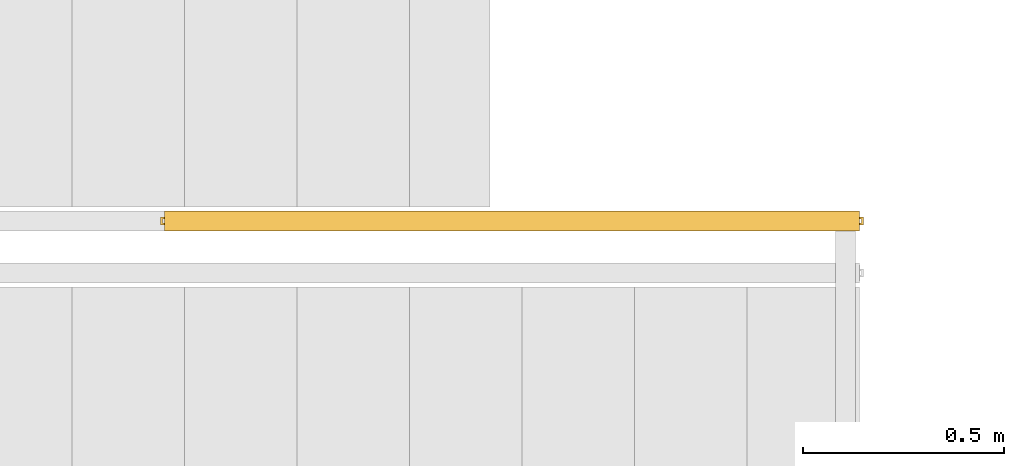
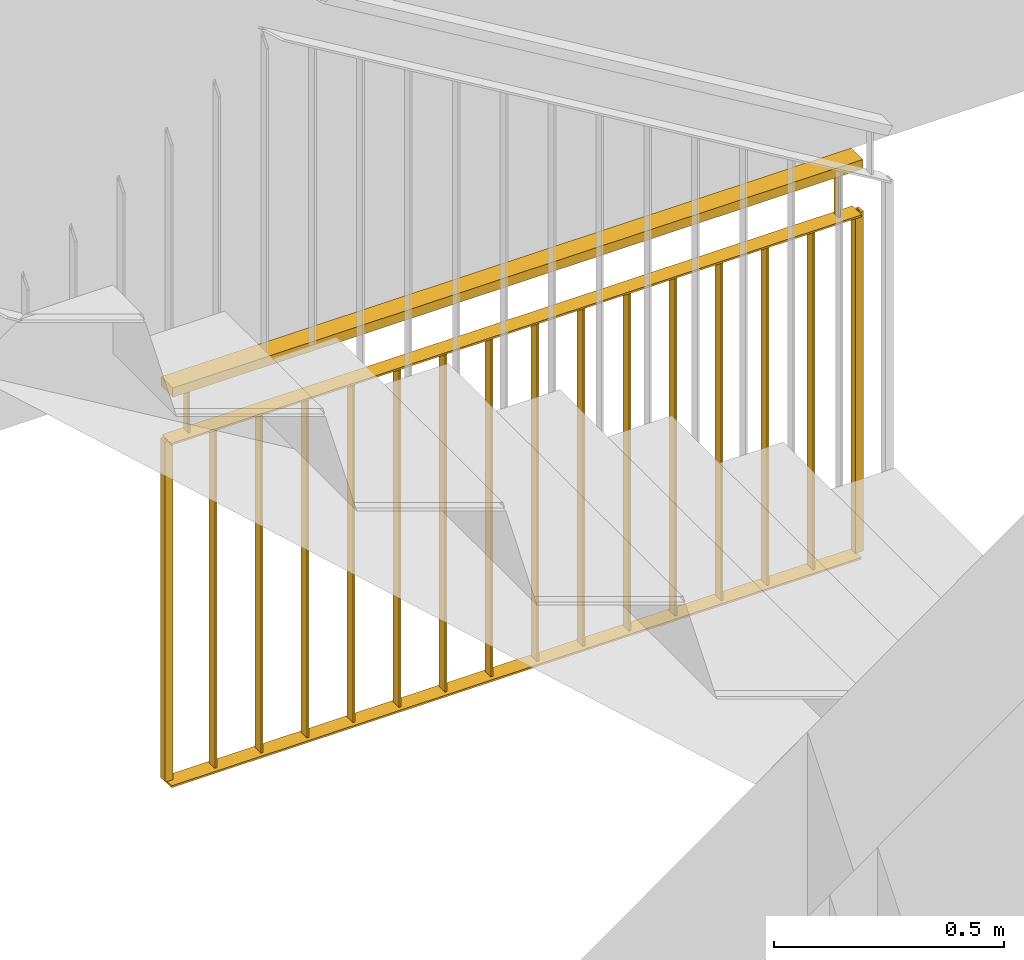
# One storey, part 9 of 61: 1 railing.
"""IFC2X3 building model written with IfcOpenShell, lengths in millimetres."""

from ifc_helpers import new_model, entity, si_unit, converted_unit, derived_unit, money_unit, direction, frame, origin_with_axes, place, context, subcontext, project, spatial, faceted_brep, material, material_list, type_object, element, save


model = new_model("IFC2X3")

# Units and contexts
model_context = context("Model", 3, precision=0.01, world=origin_with_axes(), true_north=direction((0.34421633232, 0.938890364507)))
body_context = subcontext(model_context, "Body", "Model", "MODEL_VIEW")
ifc_project = project(units=[si_unit("LENGTHUNIT", "METRE", prefix="MILLI"), si_unit("AREAUNIT", "SQUARE_METRE"), si_unit("VOLUMEUNIT", "CUBIC_METRE"), converted_unit("PLANEANGLEUNIT", "DEGREE", entity("IfcPlaneAngleMeasure", 0.0174532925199), si_unit("PLANEANGLEUNIT", "RADIAN"), dimensions=[0, 0, 0, 0, 0, 0, 0]), si_unit("SOLIDANGLEUNIT", "STERADIAN"), money_unit("USD"), converted_unit("TIMEUNIT", "Year", entity("IfcTimeMeasure", 31556926.0), si_unit("TIMEUNIT", "SECOND"), dimensions=[0, 0, 1, 0, 0, 0, 0]), si_unit("MASSUNIT", "GRAM", prefix="KILO"), si_unit("THERMODYNAMICTEMPERATUREUNIT", "DEGREE_CELSIUS"), si_unit("LUMINOUSINTENSITYUNIT", "LUMEN"), si_unit("ENERGYUNIT", "JOULE", prefix="MEGA"), derived_unit("THERMALCONDUCTANCEUNIT", [(si_unit("POWERUNIT", "WATT"), 1), (si_unit("LENGTHUNIT", "METRE"), -1), (si_unit("THERMODYNAMICTEMPERATUREUNIT", "KELVIN"), -1)]), derived_unit("SPECIFICHEATCAPACITYUNIT", [(si_unit("ENERGYUNIT", "JOULE"), 1), (si_unit("MASSUNIT", "GRAM", prefix="KILO"), -1), (si_unit("THERMODYNAMICTEMPERATUREUNIT", "KELVIN"), -1)]), derived_unit("MASSDENSITYUNIT", [(si_unit("MASSUNIT", "GRAM", prefix="KILO"), 1), (si_unit("VOLUMEUNIT", "CUBIC_METRE"), -1)])], contexts=[model_context])

# Site, building, storey
site_placement = place(None, origin_with_axes())
site = spatial("IfcSite", under=ifc_project, at=site_placement, Name="USTRONIE MORSKIE", CompositionType="ELEMENT")
building_placement = place(site_placement, origin_with_axes())
building = spatial("IfcBuilding", under=site, at=building_placement, Name="Budynek", CompositionType="ELEMENT")
storey_placement = place(building_placement, frame((0.0, 0.0, 13000.0), z_axis=(0.0, 0.0, 1.0), x_axis=(1.0, 0.0, 0.0)))
storey = spatial("IfcBuildingStorey", under=building, at=storey_placement, Name="PIĘTRO 4", CompositionType="ELEMENT", Elevation=13000.0)

# Railing
ifc_material_1 = material(Name="Stal konstrukcyjna")
ifc_material_2 = material(Name="Stal nierdzewna")
ifc_material_list = material_list([ifc_material_1, ifc_material_1, ifc_material_2, ifc_material_2, ifc_material_2, ifc_material_1, ifc_material_1, ifc_material_1, ifc_material_1, ifc_material_1, ifc_material_1, ifc_material_1, ifc_material_1, ifc_material_1, ifc_material_1, ifc_material_1, ifc_material_1, ifc_material_1, ifc_material_1])
railing_type = type_object("IfcRailingType", Name="Typ balustrady", PredefinedType="NOTDEFINED")
railing_placement = place(storey_placement, frame((412457.879182, 728501.198914, 0.0), z_axis=(0.0, 0.0, 1.0), x_axis=(1.0, 0.0, 0.0)))
element("IfcRailing", 1, at=railing_placement, inside=storey, type_object=railing_type, material=ifc_material_list, Name="BL1", PredefinedType="NOTDEFINED", context=body_context, shape_type="Brep", body=[
    faceted_brep([(10.0000028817, -44.9999993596, -150.0), (10.0000016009, -24.9999993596, -150.0), (10.0000016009, -24.9999993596, 750.0), (10.0000028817, -44.9999993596, 750.0), (-9.99999711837, -45.0000006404, -150.0), (-9.99999839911, -25.0000006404, -150.0), (5.00000256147, -39.9999996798, -150.0), (5.00000192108, -29.9999996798, -150.0), (-4.99999807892, -30.0000003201, -150.0), (-4.99999743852, -40.0000003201, -150.0), (-9.99999839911, -25.0000006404, 750.0), (-9.99999711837, -45.0000006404, 750.0), (5.00000256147, -39.9999996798, 750.0), (-4.99999743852, -40.0000003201, 750.0), (-4.99999807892, -30.0000003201, 750.0), (5.00000192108, -29.9999996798, 750.0)], [[[0, 1, 2, 3]], [[0, 4, 5, 1], [6, 7, 8, 9]], [[1, 5, 10, 2]], [[3, 2, 10, 11], [12, 13, 14, 15]], [[4, 0, 3, 11]], [[5, 4, 11, 10]], [[7, 6, 12, 15]], [[8, 7, 15, 14]], [[9, 8, 14, 13]], [[6, 9, 13, 12]]]),
    faceted_brep([(1740.04173547, -44.9998885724, -150.0), (1740.04173419, -24.9998885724, -150.0), (1740.04173419, -24.9998885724, 750.0), (1740.04173547, -44.9998885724, 750.0), (1720.04173547, -44.9998898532, -150.0), (1720.04173419, -24.9998898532, -150.0), (1735.04173515, -39.9998888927, -150.0), (1735.04173451, -29.9998888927, -150.0), (1725.04173451, -29.999889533, -150.0), (1725.04173515, -39.999889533, -150.0), (1720.04173419, -24.9998898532, 750.0), (1720.04173547, -44.9998898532, 750.0), (1735.04173515, -39.9998888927, 750.0), (1725.04173515, -39.999889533, 750.0), (1725.04173451, -29.999889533, 750.0), (1735.04173451, -29.9998888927, 750.0)], [[[0, 1, 2, 3]], [[0, 4, 5, 1], [6, 7, 8, 9]], [[1, 5, 10, 2]], [[3, 2, 10, 11], [12, 13, 14, 15]], [[4, 0, 3, 11]], [[5, 4, 11, 10]], [[7, 6, 12, 15]], [[8, 7, 15, 14]], [[9, 8, 14, 13]], [[6, 9, 13, 12]]]),
    faceted_brep([(3.84221721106e-06, -59.9999999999, 900.0), (3.84221721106e-06, -59.9999999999, 875.0), (1730.04173643, -59.9998892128, 875.0), (1730.04173643, -59.9998892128, 900.0), (6.40341113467e-07, -9.99999999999, 900.0), (6.40341113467e-07, -9.99999999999, 875.0), (1.60088120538e-06, -25.0, 875.0), (1.60088120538e-06, -25.0, 880.0), (2.88167711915e-06, -45.0, 880.0), (2.88167711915e-06, -45.0, 875.0), (1730.04173547, -44.9998892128, 875.0), (1730.04173547, -44.9998892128, 880.0), (1730.04173419, -24.9998892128, 880.0), (1730.04173419, -24.9998892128, 875.0), (1730.04173323, -9.99988921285, 875.0), (1730.04173323, -9.99988921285, 900.0)], [[[0, 1, 2, 3]], [[0, 4, 5, 6, 7, 8, 9, 1]], [[1, 9, 10, 2]], [[3, 2, 10, 11, 12, 13, 14, 15]], [[4, 0, 3, 15]], [[5, 4, 15, 14]], [[6, 5, 14, 13]], [[7, 6, 13, 12]], [[8, 7, 12, 11]], [[9, 8, 11, 10]]]),
    faceted_brep([(2.88167711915e-06, -45.0, 875.0), (1.60088120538e-06, -25.0, 875.0), (1730.04173419, -24.9998892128, 875.0), (1730.04173547, -44.9998892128, 875.0), (2.88167711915e-06, -45.0, 880.0), (1.60088120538e-06, -25.0, 880.0), (1730.04173419, -24.9998892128, 880.0), (1730.04173547, -44.9998892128, 880.0)], [[[0, 1, 2, 3]], [[0, 4, 5, 1]], [[1, 5, 6, 2]], [[3, 2, 6, 7]], [[4, 0, 3, 7]], [[5, 4, 7, 6]]]),
    faceted_brep([(52.5000028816, -44.999996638, 755.0), (52.5000016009, -24.999996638, 755.0), (52.5000016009, -24.999996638, 875.0), (52.5000028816, -44.999996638, 875.0), (47.5000028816, -44.9999969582, 755.0), (47.5000016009, -24.9999969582, 755.0), (47.5000016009, -24.9999969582, 875.0), (47.5000028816, -44.9999969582, 875.0)], [[[0, 1, 2, 3]], [[0, 4, 5, 1]], [[1, 5, 6, 2]], [[3, 2, 6, 7]], [[4, 0, 3, 7]], [[5, 4, 7, 6]]]),
    faceted_brep([(1682.54173547, -44.9998922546, 755.0), (1682.54173419, -24.9998922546, 755.0), (1682.54173419, -24.9998922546, 875.0), (1682.54173547, -44.9998922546, 875.0), (1677.54173547, -44.9998925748, 755.0), (1677.54173419, -24.9998925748, 755.0), (1677.54173419, -24.9998925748, 875.0), (1677.54173547, -44.9998925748, 875.0)], [[[0, 1, 2, 3]], [[0, 4, 5, 1]], [[1, 5, 6, 2]], [[3, 2, 6, 7]], [[4, 0, 3, 7]], [[5, 4, 7, 6]]]),
    faceted_brep([(3.52201823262e-06, -54.9999999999, 750.0), (3.52201823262e-06, -54.9999999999, 745.0), (1730.04173611, -54.9998892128, 745.0), (1730.04173611, -54.9998892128, 750.0), (9.6054009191e-07, -15.0, 750.0), (9.6054009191e-07, -15.0, 745.0), (1730.04173355, -14.9998892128, 745.0), (1730.04173355, -14.9998892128, 750.0)], [[[0, 1, 2, 3]], [[0, 4, 5, 1]], [[1, 5, 6, 2]], [[3, 2, 6, 7]], [[4, 0, 3, 7]], [[5, 4, 7, 6]]]),
    faceted_brep([(3.52201823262e-06, -54.9999999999, -157.5), (3.52201823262e-06, -54.9999999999, -162.5), (1730.04173611, -54.9998892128, -162.5), (1730.04173611, -54.9998892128, -157.5), (9.6054009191e-07, -15.0, -157.5), (9.6054009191e-07, -15.0, -162.5), (1730.04173355, -14.9998892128, -162.5), (1730.04173355, -14.9998892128, -157.5)], [[[0, 1, 2, 3]], [[0, 4, 5, 1]], [[1, 5, 6, 2]], [[3, 2, 6, 7]], [[4, 0, 3, 7]], [[5, 4, 7, 6]]]),
    faceted_brep([(117.836118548, -47.499992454, -155.0), (117.836116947, -22.4999924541, -155.0), (117.836116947, -22.4999924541, 745.0), (117.836118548, -47.499992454, 745.0), (112.836118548, -47.4999927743, -155.0), (112.836116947, -22.4999927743, -155.0), (112.836116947, -22.4999927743, 745.0), (112.836118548, -47.4999927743, 745.0)], [[[0, 1, 2, 3]], [[0, 4, 5, 1]], [[1, 5, 6, 2]], [[3, 2, 6, 7]], [[4, 0, 3, 7]], [[5, 4, 7, 6]]]),
    faceted_brep([(233.172234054, -47.4999850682, -155.0), (233.172232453, -22.4999850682, -155.0), (233.172232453, -22.4999850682, 745.0), (233.172234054, -47.4999850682, 745.0), (228.172234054, -47.4999853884, -155.0), (228.172232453, -22.4999853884, -155.0), (228.172232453, -22.4999853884, 745.0), (228.172234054, -47.4999853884, 745.0)], [[[0, 1, 2, 3]], [[0, 4, 5, 1]], [[1, 5, 6, 2]], [[3, 2, 6, 7]], [[4, 0, 3, 7]], [[5, 4, 7, 6]]]),
    faceted_brep([(348.50834956, -47.4999776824, -155.0), (348.508347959, -22.4999776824, -155.0), (348.508347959, -22.4999776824, 745.0), (348.50834956, -47.4999776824, 745.0), (343.50834956, -47.4999780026, -155.0), (343.508347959, -22.4999780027, -155.0), (343.508347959, -22.4999780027, 745.0), (343.50834956, -47.4999780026, 745.0)], [[[0, 1, 2, 3]], [[0, 4, 5, 1]], [[1, 5, 6, 2]], [[3, 2, 6, 7]], [[4, 0, 3, 7]], [[5, 4, 7, 6]]]),
    faceted_brep([(463.844465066, -47.4999702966, -155.0), (463.844463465, -22.4999702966, -155.0), (463.844463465, -22.4999702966, 745.0), (463.844465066, -47.4999702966, 745.0), (458.844465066, -47.4999706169, -155.0), (458.844463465, -22.4999706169, -155.0), (458.844463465, -22.4999706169, 745.0), (458.844465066, -47.4999706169, 745.0)], [[[0, 1, 2, 3]], [[0, 4, 5, 1]], [[1, 5, 6, 2]], [[3, 2, 6, 7]], [[4, 0, 3, 7]], [[5, 4, 7, 6]]]),
    faceted_brep([(579.180580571, -47.4999629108, -155.0), (579.18057897, -22.4999629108, -155.0), (579.18057897, -22.4999629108, 745.0), (579.180580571, -47.4999629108, 745.0), (574.180580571, -47.4999632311, -155.0), (574.18057897, -22.4999632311, -155.0), (574.18057897, -22.4999632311, 745.0), (574.180580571, -47.4999632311, 745.0)], [[[0, 1, 2, 3]], [[0, 4, 5, 1]], [[1, 5, 6, 2]], [[3, 2, 6, 7]], [[4, 0, 3, 7]], [[5, 4, 7, 6]]]),
    faceted_brep([(694.516696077, -47.4999555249, -155.0), (694.516694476, -22.4999555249, -155.0), (694.516694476, -22.4999555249, 745.0), (694.516696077, -47.4999555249, 745.0), (689.516696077, -47.4999558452, -155.0), (689.516694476, -22.4999558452, -155.0), (689.516694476, -22.4999558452, 745.0), (689.516696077, -47.4999558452, 745.0)], [[[0, 1, 2, 3]], [[0, 4, 5, 1]], [[1, 5, 6, 2]], [[3, 2, 6, 7]], [[4, 0, 3, 7]], [[5, 4, 7, 6]]]),
    faceted_brep([(809.852811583, -47.4999481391, -155.0), (809.852809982, -22.4999481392, -155.0), (809.852809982, -22.4999481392, 745.0), (809.852811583, -47.4999481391, 745.0), (804.852811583, -47.4999484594, -155.0), (804.852809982, -22.4999484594, -155.0), (804.852809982, -22.4999484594, 745.0), (804.852811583, -47.4999484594, 745.0)], [[[0, 1, 2, 3]], [[0, 4, 5, 1]], [[1, 5, 6, 2]], [[3, 2, 6, 7]], [[4, 0, 3, 7]], [[5, 4, 7, 6]]]),
    faceted_brep([(925.188927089, -47.4999407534, -155.0), (925.188925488, -22.4999407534, -155.0), (925.188925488, -22.4999407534, 745.0), (925.188927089, -47.4999407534, 745.0), (920.188927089, -47.4999410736, -155.0), (920.188925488, -22.4999410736, -155.0), (920.188925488, -22.4999410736, 745.0), (920.188927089, -47.4999410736, 745.0)], [[[0, 1, 2, 3]], [[0, 4, 5, 1]], [[1, 5, 6, 2]], [[3, 2, 6, 7]], [[4, 0, 3, 7]], [[5, 4, 7, 6]]]),
    faceted_brep([(1040.5250426, -47.4999333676, -155.0), (1040.52504099, -22.4999333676, -155.0), (1040.52504099, -22.4999333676, 745.0), (1040.5250426, -47.4999333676, 745.0), (1035.5250426, -47.4999336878, -155.0), (1035.52504099, -22.4999336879, -155.0), (1035.52504099, -22.4999336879, 745.0), (1035.5250426, -47.4999336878, 745.0)], [[[0, 1, 2, 3]], [[0, 4, 5, 1]], [[1, 5, 6, 2]], [[3, 2, 6, 7]], [[4, 0, 3, 7]], [[5, 4, 7, 6]]]),
    faceted_brep([(1155.8611581, -47.4999259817, -155.0), (1155.8611565, -22.4999259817, -155.0), (1155.8611565, -22.4999259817, 745.0), (1155.8611581, -47.4999259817, 745.0), (1150.8611581, -47.499926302, -155.0), (1150.8611565, -22.499926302, -155.0), (1150.8611565, -22.499926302, 745.0), (1150.8611581, -47.499926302, 745.0)], [[[0, 1, 2, 3]], [[0, 4, 5, 1]], [[1, 5, 6, 2]], [[3, 2, 6, 7]], [[4, 0, 3, 7]], [[5, 4, 7, 6]]]),
    faceted_brep([(1271.19727361, -47.4999185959, -155.0), (1271.19727201, -22.4999185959, -155.0), (1271.19727201, -22.4999185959, 745.0), (1271.19727361, -47.4999185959, 745.0), (1266.19727361, -47.4999189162, -155.0), (1266.19727201, -22.4999189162, -155.0), (1266.19727201, -22.4999189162, 745.0), (1266.19727361, -47.4999189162, 745.0)], [[[0, 1, 2, 3]], [[0, 4, 5, 1]], [[1, 5, 6, 2]], [[3, 2, 6, 7]], [[4, 0, 3, 7]], [[5, 4, 7, 6]]]),
    faceted_brep([(1386.53338911, -47.4999112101, -155.0), (1386.53338751, -22.4999112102, -155.0), (1386.53338751, -22.4999112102, 745.0), (1386.53338911, -47.4999112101, 745.0), (1381.53338911, -47.4999115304, -155.0), (1381.53338751, -22.4999115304, -155.0), (1381.53338751, -22.4999115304, 745.0), (1381.53338911, -47.4999115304, 745.0)], [[[0, 1, 2, 3]], [[0, 4, 5, 1]], [[1, 5, 6, 2]], [[3, 2, 6, 7]], [[4, 0, 3, 7]], [[5, 4, 7, 6]]]),
    faceted_brep([(1501.86950462, -47.4999038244, -155.0), (1501.86950302, -22.4999038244, -155.0), (1501.86950302, -22.4999038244, 745.0), (1501.86950462, -47.4999038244, 745.0), (1496.86950462, -47.4999041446, -155.0), (1496.86950302, -22.4999041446, -155.0), (1496.86950302, -22.4999041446, 745.0), (1496.86950462, -47.4999041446, 745.0)], [[[0, 1, 2, 3]], [[0, 4, 5, 1]], [[1, 5, 6, 2]], [[3, 2, 6, 7]], [[4, 0, 3, 7]], [[5, 4, 7, 6]]]),
    faceted_brep([(1617.20562012, -47.4998964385, -155.0), (1617.20561852, -22.4998964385, -155.0), (1617.20561852, -22.4998964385, 745.0), (1617.20562012, -47.4998964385, 745.0), (1612.20562012, -47.4998967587, -155.0), (1612.20561852, -22.4998967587, -155.0), (1612.20561852, -22.4998967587, 745.0), (1612.20562012, -47.4998967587, 745.0)], [[[0, 1, 2, 3]], [[0, 4, 5, 1]], [[1, 5, 6, 2]], [[3, 2, 6, 7]], [[4, 0, 3, 7]], [[5, 4, 7, 6]]]),
])

save(model, "model.ifc")
